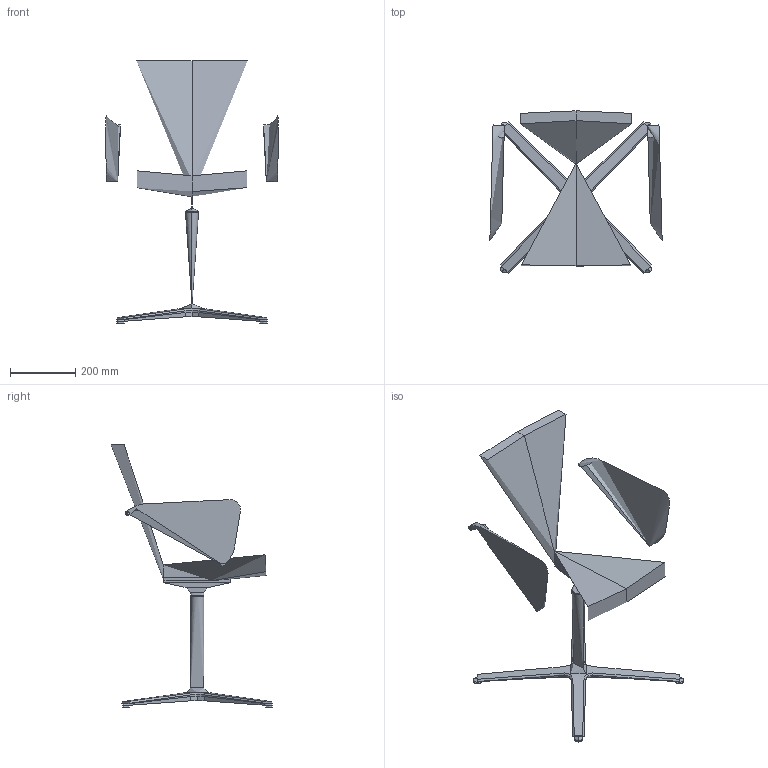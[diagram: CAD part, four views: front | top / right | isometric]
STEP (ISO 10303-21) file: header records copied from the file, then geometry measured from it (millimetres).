
FILE_DESCRIPTION(/* description */ (''),/* implementation_level */ '2;1');
FILE_NAME(/* name */ 'FLCD49~1',/* time_stamp */ '2015-11-12T16:06:37+01:00',/* author */ (''),/* organization */ (''),/* preprocessor_version */ 'ST-DEVELOPER v15',/* originating_system */ '',/* authorisation */ '');
FILE_SCHEMA (('CONFIG_CONTROL_DESIGN'));
Length unit declared in the file: millimetre
Products named in the file (1): Document
Bounding box: 529.02 x 497.12 x 807.04 mm (x, y, z)
Volume: 16941896.1 mm3; surface area: 1131560.7 mm2
Topology: 4 solids, 10 shells, 176 faces, 414 edges, 248 vertices
Faces by surface type: bspline 134, plane 42
Entity records: 14952 total; most frequent: CARTESIAN_POINT 12588, ORIENTED_EDGE 780, EDGE_CURVE 397, VERTEX_POINT 246, EDGE_LOOP 188, ADVANCED_FACE 176, FACE_OUTER_BOUND 176, B_SPLINE_CURVE_WITH_KNOTS 120
